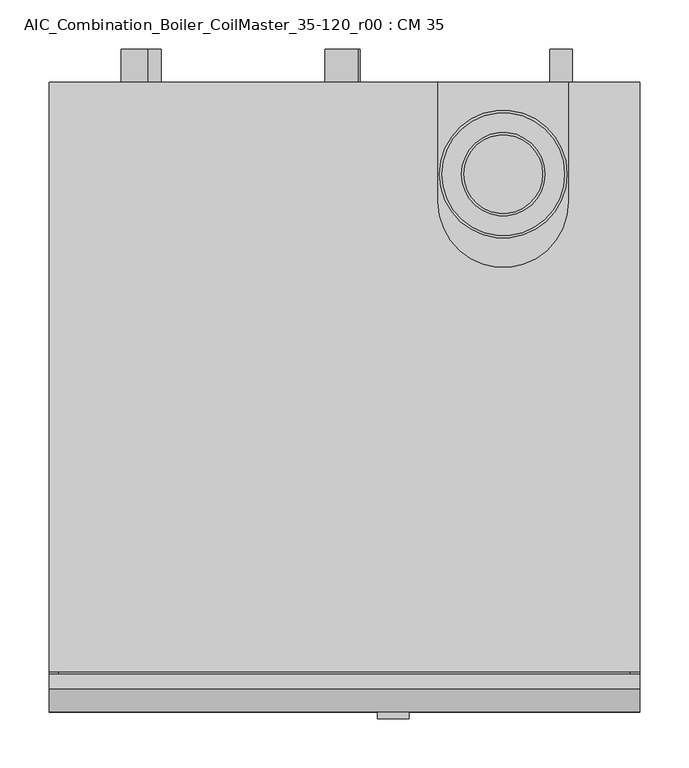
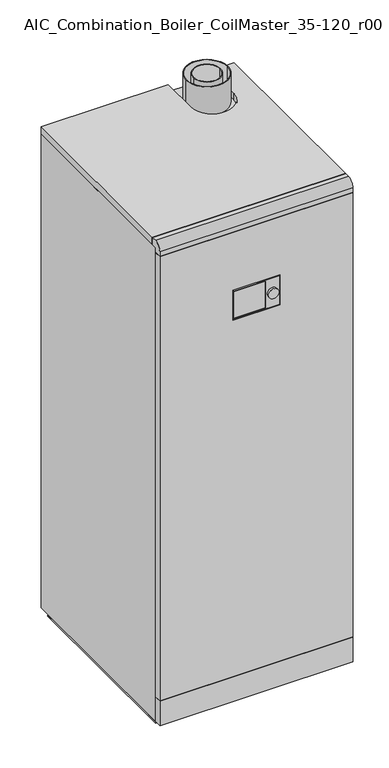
"""IFC4 building model written with IfcOpenShell, lengths in millimetres: unitary equipment geometry, AIC_Combination_Boiler_CoilMaster_35-120_r00 : CM 35."""

from ifc_helpers import new_model, si_unit, point, frame, frame_2d, origin, place, context, project, spatial, polyline, circle_curve, trimmed, segment, composite_curve, outline, extrude, source, transform, mapped, element, save
from ifc_brep_helpers import plane_surface, cylinder_surface, revolved_surface, advanced_brep


def aic_combination_boiler_coilmaster_35_120_r00_cm_35_10141b9a(model_context):
    return source(origin(), model_context, "Body", "SolidModel", [
        advanced_brep(
        [(72.0, -641.0, 1371.0), (-72.0, -641.0, 1371.0), (-72.0, -641.0, 1278.0), (72.0, -641.0, 1278.0), (-70.0, -641.0, 1369.0), (28.0, -641.0, 1369.0), (28.0, -641.0, 1280.0), (-70.0, -641.0, 1280.0), (66.0, -641.0, 1324.5), (34.0, -641.0, 1324.5), (72.0, -631.0, 1371.0), (72.0, -631.0, 1278.0), (-72.0, -631.0, 1278.0), (-72.0, -631.0, 1371.0), (28.0, -639.0, 1369.0), (-70.0, -639.0, 1369.0), (-70.0, -639.0, 1280.0), (28.0, -639.0, 1280.0), (34.0, -648.0, 1324.5), (66.0, -648.0, 1324.5)],
        [
            (0, 1),
            (1, 2),
            (2, 3),
            (3, 0),
            (4, 5),
            (5, 6),
            (6, 7),
            (7, 4),
            (8, 9, circle_curve(frame((50.0, -641.0, 1324.5), z_axis=(0.0, 1.0, 0.0), x_axis=(1.0, 0.0, 0.0)), 16.0)),
            (9, 8, circle_curve(frame((50.0, -641.0, 1324.5), z_axis=(0.0, 1.0, 0.0), x_axis=(1.0, 0.0, 0.0)), 16.0)),
            (10, 11),
            (11, 12),
            (12, 13),
            (13, 10),
            (0, 10),
            (13, 1),
            (12, 2),
            (11, 3),
            (14, 15),
            (15, 16),
            (16, 17),
            (17, 14),
            (14, 5),
            (4, 15),
            (7, 16),
            (6, 17),
            (18, 19, circle_curve(frame((50.0, -648.0, 1324.5), z_axis=(0.0, -1.0, 0.0), x_axis=(1.0, 0.0, 0.0)), 16.0)),
            (19, 18, circle_curve(frame((50.0, -648.0, 1324.5), z_axis=(0.0, -1.0, 0.0), x_axis=(1.0, 0.0, 0.0)), 16.0)),
            (18, 9),
            (8, 19),
        ],
        [
            plane_surface(frame((-72.0, -641.0, 1371.0), z_axis=(0.0, -1.0, 0.0), x_axis=(-1.0, 0.0, 0.0))),
            plane_surface(frame((-72.0, -631.0, 1371.0), z_axis=(0.0, 1.0, 0.0), x_axis=(1.0, 0.0, 0.0))),
            plane_surface(frame((72.0, -641.0, 1371.0), z_axis=(0.0, 0.0, 1.0), x_axis=(0.0, 1.0, 0.0))),
            plane_surface(frame((-72.0, -641.0, 1371.0), z_axis=(-1.0, 0.0, 0.0), x_axis=(0.0, 1.0, 0.0))),
            plane_surface(frame((-72.0, -641.0, 1278.0), z_axis=(0.0, 0.0, -1.0), x_axis=(0.0, 1.0, 0.0))),
            plane_surface(frame((72.0, -641.0, 1278.0), z_axis=(1.0, 0.0, 0.0), x_axis=(0.0, 1.0, 0.0))),
            plane_surface(frame((-70.0, -639.0, 1369.0), z_axis=(0.0, -1.0, 0.0), x_axis=(1.0, 0.0, 0.0))),
            plane_surface(frame((28.0, -641.0, 1369.0), z_axis=(0.0, 0.0, -1.0), x_axis=(0.0, 1.0, 0.0))),
            plane_surface(frame((-70.0, -641.0, 1369.0), z_axis=(1.0, 0.0, 0.0), x_axis=(0.0, 1.0, 0.0))),
            plane_surface(frame((-70.0, -641.0, 1280.0), z_axis=(0.0, 0.0, 1.0), x_axis=(0.0, 1.0, 0.0))),
            plane_surface(frame((28.0, -641.0, 1280.0), z_axis=(-1.0, 0.0, 0.0), x_axis=(0.0, 1.0, 0.0))),
            plane_surface(frame((66.0, -648.0, 1324.5), z_axis=(0.0, -1.0, 0.0), x_axis=(0.0, 0.0, 1.0))),
            cylinder_surface(frame((50.0, -641.0, 1324.5), z_axis=(0.0, -1.0, 0.0), x_axis=(1.0, 0.0, 0.0)), 16.0),
        ],
        [
            (0, [[1, 2, 3, 4], [5, 6, 7, 8], [9, 10]]),
            (1, [[11, 12, 13, 14]]),
            (2, [[-1, 15, -14, 16]]),
            (3, [[-2, -16, -13, 17]]),
            (4, [[-3, -17, -12, 18]]),
            (5, [[-4, -18, -11, -15]]),
            (6, [[19, 20, 21, 22]]),
            (7, [[-19, 23, -5, 24]]),
            (8, [[-20, -24, -8, 25]]),
            (9, [[-21, -25, -7, 26]]),
            (10, [[-22, -26, -6, -23]]),
            (11, [[27, 28]]),
            (12, [[-27, 29, -9, 30]]),
            (12, [[-28, -30, -10, -29]]),
        ],
    ),
        extrude(outline(composite_curve([segment(trimmed(circle_curve(frame_2d((139.0, 221.0)), 11.5), [point((139.0, 209.5))], [point((139.0, 232.5))], False, "CARTESIAN"), True, "CONTINUOUS"), segment(trimmed(circle_curve(frame_2d((139.0, 221.0)), 11.5), [point((139.0, 232.5))], [point((139.0, 209.5))], False, "CARTESIAN"), True, "CONTINUOUS")], self_intersect=False)), frame((0.0, 0.0, 0.0), z_axis=(0.0, 1.0, 0.0), x_axis=(0.0, 0.0, 1.0)), (0.0, 0.0, 1.0), 34.0),
        extrude(outline(composite_curve([segment(trimmed(circle_curve(frame_2d((299.0, -1.0)), 16.7), [point((299.0, -17.7))], [point((299.0, 15.7))], False, "CARTESIAN"), True, "CONTINUOUS"), segment(trimmed(circle_curve(frame_2d((299.0, -1.0)), 16.7), [point((299.0, 15.7))], [point((299.0, -17.7))], False, "CARTESIAN"), True, "CONTINUOUS")], self_intersect=False)), frame((0.0, 0.0, 0.0), z_axis=(0.0, 1.0, 0.0), x_axis=(0.0, 0.0, 1.0)), (0.0, 0.0, 1.0), 34.0),
        extrude(outline(composite_curve([segment(trimmed(circle_curve(frame_2d((338.0, -200.0)), 13.35), [point((338.0, -213.35))], [point((338.0, -186.65))], False, "CARTESIAN"), True, "CONTINUOUS"), segment(trimmed(circle_curve(frame_2d((338.0, -200.0)), 13.35), [point((338.0, -186.65))], [point((338.0, -213.35))], False, "CARTESIAN"), True, "CONTINUOUS")], self_intersect=False)), frame((0.0, 0.0, 0.0), z_axis=(0.0, 1.0, 0.0), x_axis=(0.0, 0.0, 1.0)), (0.0, 0.0, 1.0), 34.0),
        extrude(outline(composite_curve([segment(trimmed(circle_curve(frame_2d((455.0, -200.0)), 13.35), [point((455.0, -213.35))], [point((455.0, -186.65))], False, "CARTESIAN"), True, "CONTINUOUS"), segment(trimmed(circle_curve(frame_2d((455.0, -200.0)), 13.35), [point((455.0, -186.65))], [point((455.0, -213.35))], False, "CARTESIAN"), True, "CONTINUOUS")], self_intersect=False)), frame((0.0, 0.0, 0.0), z_axis=(0.0, 1.0, 0.0), x_axis=(0.0, 0.0, 1.0)), (0.0, 0.0, 1.0), 34.0),
        extrude(outline(composite_curve([segment(trimmed(circle_curve(frame_2d((570.0, -200.0)), 13.35), [point((570.0, -213.35))], [point((570.0, -186.65))], False, "CARTESIAN"), True, "CONTINUOUS"), segment(trimmed(circle_curve(frame_2d((570.0, -200.0)), 13.35), [point((570.0, -186.65))], [point((570.0, -213.35))], False, "CARTESIAN"), True, "CONTINUOUS")], self_intersect=False)), frame((0.0, 0.0, 0.0), z_axis=(0.0, 1.0, 0.0), x_axis=(0.0, 0.0, 1.0)), (0.0, 0.0, 1.0), 34.0),
        extrude(outline(composite_curve([segment(trimmed(circle_curve(frame_2d((1330.0, -200.0)), 13.35), [point((1330.0, -213.35))], [point((1330.0, -186.65))], False, "CARTESIAN"), True, "CONTINUOUS"), segment(trimmed(circle_curve(frame_2d((1330.0, -200.0)), 13.35), [point((1330.0, -186.65))], [point((1330.0, -213.35))], False, "CARTESIAN"), True, "CONTINUOUS")], self_intersect=False)), frame((0.0, 0.0, 0.0), z_axis=(0.0, 1.0, 0.0), x_axis=(0.0, 0.0, 1.0)), (0.0, 0.0, 1.0), 34.0),
        extrude(outline(composite_curve([segment(trimmed(circle_curve(frame_2d((1368.0, -3.0)), 16.7), [point((1368.0, -19.7))], [point((1368.0, 13.7))], False, "CARTESIAN"), True, "CONTINUOUS"), segment(trimmed(circle_curve(frame_2d((1368.0, -3.0)), 16.7), [point((1368.0, 13.7))], [point((1368.0, -19.7))], False, "CARTESIAN"), True, "CONTINUOUS")], self_intersect=False)), frame((0.0, 0.0, 0.0), z_axis=(0.0, 1.0, 0.0), x_axis=(0.0, 0.0, 1.0)), (0.0, 0.0, 1.0), 34.0),
        extrude(outline(composite_curve([segment(trimmed(circle_curve(frame_2d((1491.0, -214.0)), 13.35), [point((1491.0, -227.35))], [point((1491.0, -200.65))], False, "CARTESIAN"), True, "CONTINUOUS"), segment(trimmed(circle_curve(frame_2d((1491.0, -214.0)), 13.35), [point((1491.0, -200.65))], [point((1491.0, -227.35))], False, "CARTESIAN"), True, "CONTINUOUS")], self_intersect=False)), frame((0.0, 0.0, 0.0), z_axis=(0.0, 1.0, 0.0), x_axis=(0.0, 0.0, 1.0)), (0.0, 0.0, 1.0), 34.0),
        extrude(outline(composite_curve([segment(trimmed(circle_curve(frame_2d((162.0, -93.4)), 42.5), [point((119.5, -93.4))], [point((204.5, -93.4))], False, "CARTESIAN"), True, "CONTINUOUS"), segment(trimmed(circle_curve(frame_2d((162.0, -93.4)), 42.5), [point((204.5, -93.4))], [point((119.5, -93.4))], False, "CARTESIAN"), True, "CONTINUOUS")], self_intersect=False), holes=[composite_curve([segment(trimmed(circle_curve(frame_2d((162.0, -93.4)), 40.0), [point((122.0, -93.4))], [point((202.0, -93.4))], True, "CARTESIAN"), True, "CONTINUOUS"), segment(trimmed(circle_curve(frame_2d((162.0, -93.4)), 40.0), [point((202.0, -93.4))], [point((122.0, -93.4))], True, "CARTESIAN"), True, "CONTINUOUS")], self_intersect=False)]), frame((0.0, 0.0, 1580.5), z_axis=(0.0, 0.0, 1.0), x_axis=(1.0, 0.0, 0.0)), (0.0, 0.0, 1.0), 94.5),
        extrude(outline(composite_curve([segment(trimmed(circle_curve(frame_2d((162.0, -93.4)), 65.0), [point((97.0, -93.4))], [point((227.0, -93.4))], False, "CARTESIAN"), True, "CONTINUOUS"), segment(trimmed(circle_curve(frame_2d((162.0, -93.4)), 65.0), [point((227.0, -93.4))], [point((97.0, -93.4))], False, "CARTESIAN"), True, "CONTINUOUS")], self_intersect=False), holes=[composite_curve([segment(trimmed(circle_curve(frame_2d((162.0, -93.4)), 62.5), [point((99.5, -93.4))], [point((224.5, -93.4))], True, "CARTESIAN"), True, "CONTINUOUS"), segment(trimmed(circle_curve(frame_2d((162.0, -93.4)), 62.5), [point((224.5, -93.4))], [point((99.5, -93.4))], True, "CARTESIAN"), True, "CONTINUOUS")], self_intersect=False)]), frame((0.0, 0.0, 1580.5), z_axis=(0.0, 0.0, 1.0), x_axis=(1.0, 0.0, 0.0)), (0.0, 0.0, 1.0), 94.5),
        advanced_brep(
        [(301.0, -641.0, 20.0), (-301.0, -641.0, 20.0), (-301.0, -617.5, 20.0), (-291.0, -617.5, 20.0), (-291.0, -615.0, 20.0), (291.0, -615.0, 20.0), (291.0, -617.5, 20.0), (301.0, -617.5, 20.0), (-301.0, 0.0, 20.0), (-291.0, 0.0, 20.0), (-291.0, -58.0, 20.0), (-291.0, -560.0, 20.0), (-301.0, -615.0, 20.0), (291.0, 0.0, 20.0), (301.0, 0.0, 20.0), (301.0, -615.0, 20.0), (291.0, -560.0, 20.0), (291.0, -58.0, 20.0), (-291.0, -615.0, 100.0), (291.0, -615.0, 100.0), (-291.0, -18.0, 0.0), (-260.0, -18.0, 0.0), (-260.0, -600.0, 0.0), (-291.0, -600.0, 0.0), (260.0, -18.0, 0.0), (291.0, -18.0, 0.0), (291.0, -600.0, 0.0), (260.0, -600.0, 0.0), (-291.0, -58.0, 102.0), (-260.0, -58.0, 102.0), (-260.0, -58.0, 3.0), (-291.0, -58.0, 3.0), (-291.0, -18.0, 3.0), (-291.0, -600.0, 3.0), (-291.0, -560.0, 3.0), (-260.0, -560.0, 102.0), (-291.0, -560.0, 102.0), (-260.0, -560.0, 3.0), (-260.0, -600.0, 3.0), (-260.0, -18.0, 3.0), (260.0, -58.0, 102.0), (291.0, -58.0, 102.0), (291.0, -58.0, 3.0), (260.0, -58.0, 3.0), (260.0, -560.0, 102.0), (260.0, -18.0, 3.0), (260.0, -600.0, 3.0), (260.0, -560.0, 3.0), (291.0, -560.0, 102.0), (291.0, -560.0, 3.0), (291.0, -600.0, 3.0), (291.0, -18.0, 3.0), (-301.0, -617.5, 1604.0), (301.0, -617.5, 1604.0), (301.0, -603.0, 1604.0), (-301.0, -603.0, 1604.0), (-301.0, 0.0, 1604.0), (-301.0, -600.0, 1604.0), (301.0, -600.0, 1604.0), (301.0, 0.0, 1604.0), (229.0, 0.0, 1604.0), (229.0, -121.4, 1604.0), (95.0, -121.4, 1604.0), (95.0, 0.0, 1604.0), (-291.0, 0.0, 102.0), (291.0, 0.0, 102.0), (291.0, -615.0, 102.0), (291.0, -617.5, 102.0), (301.0, -617.5, 102.0), (301.0, -641.0, 102.0), (-301.0, -641.0, 102.0), (-301.0, -617.5, 102.0), (-291.0, -617.5, 102.0), (-291.0, -615.0, 102.0), (301.0, 0.0, 1580.5), (291.0, 0.0, 1580.5), (291.0, 0.0, 1578.5), (301.0, 0.0, 1578.5), (-301.0, 0.0, 1578.5), (-291.0, 0.0, 1578.5), (-291.0, 0.0, 1580.5), (-301.0, 0.0, 1580.5), (95.0, 0.0, 1580.5), (229.0, 0.0, 1580.5), (51.3, 0.0, 1368.0), (84.7, 0.0, 1368.0), (-301.0, -641.0, 1564.0), (-301.0, -617.5, 1564.0), (-301.0, -600.0, 1580.5), (-301.0, -641.0, 1580.5), (-301.0, -603.0, 1580.5), (-301.0, -617.5, 1580.5), (-301.0, -617.5, 1566.0), (-301.0, -641.0, 1566.0), (-301.0, -641.0, 100.0), (-301.0, -617.5, 100.0), (-301.0, -615.0, 1578.5), (301.0, -641.0, 100.0), (301.0, -641.0, 1564.0), (-73.5, -641.0, 1374.0), (73.5, -641.0, 1374.0), (73.5, -641.0, 1275.0), (-73.5, -641.0, 1275.0), (301.0, -641.0, 1580.5), (301.0, -641.0, 1566.0), (301.0, -617.5, 1564.0), (301.0, -600.0, 1580.5), (301.0, -617.5, 100.0), (301.0, -617.5, 1566.0), (301.0, -617.5, 1580.5), (301.0, -603.0, 1580.5), (301.0, -615.0, 1578.5), (73.5, -631.0, 1374.0), (-73.5, -631.0, 1374.0), (-73.5, -631.0, 1275.0), (73.5, -631.0, 1275.0), (291.0, -617.5, 100.0), (-291.0, -617.5, 100.0), (-291.0, -615.0, 1578.5), (291.0, -615.0, 1578.5), (-291.0, -617.5, 1564.0), (-291.0, -617.5, 1580.5), (-291.0, -617.5, 1566.0), (291.0, -617.5, 1564.0), (291.0, -617.5, 1580.5), (291.0, -617.5, 1566.0), (291.0, -600.0, 1580.5), (-291.0, -600.0, 1580.5), (-291.0, -603.0, 1580.5), (291.0, -603.0, 1580.5), (51.3, -58.0, 1368.0), (84.7, -58.0, 1368.0), (229.0, -121.4, 1580.5), (95.0, -121.4, 1580.5)],
        [
            (0, 1),
            (1, 2),
            (2, 3),
            (3, 4),
            (4, 5),
            (5, 6),
            (6, 7),
            (7, 0),
            (8, 9),
            (9, 10),
            (10, 11),
            (11, 4),
            (4, 12),
            (12, 8),
            (13, 14),
            (14, 15),
            (15, 5),
            (5, 16),
            (16, 17),
            (17, 13),
            (4, 18),
            (18, 19),
            (19, 5),
            (20, 21),
            (21, 22),
            (22, 23),
            (23, 20),
            (24, 25),
            (25, 26),
            (26, 27),
            (27, 24),
            (28, 29),
            (29, 30),
            (30, 31),
            (31, 10),
            (10, 28),
            (31, 32),
            (32, 20),
            (23, 33),
            (33, 34),
            (34, 11),
            (35, 36),
            (36, 11),
            (34, 37),
            (37, 35),
            (29, 35),
            (37, 38),
            (38, 22),
            (21, 39),
            (39, 30),
            (40, 41),
            (41, 17),
            (17, 42),
            (42, 43),
            (43, 40),
            (44, 40),
            (43, 45),
            (45, 24),
            (27, 46),
            (46, 47),
            (47, 44),
            (48, 44),
            (47, 49),
            (49, 16),
            (16, 48),
            (49, 50),
            (50, 26),
            (25, 51),
            (51, 42),
            (52, 53),
            (53, 54),
            (54, 55),
            (55, 52),
            (56, 57),
            (57, 58),
            (58, 59),
            (59, 60),
            (60, 61),
            (61, 62, circle_curve(frame((162.0, -121.4, 1604.0), z_axis=(0.0, 0.0, -1.0), x_axis=(1.0, 0.0, 0.0)), 67.0)),
            (62, 63),
            (63, 56),
            (28, 64),
            (64, 65),
            (65, 41),
            (48, 66),
            (66, 67),
            (67, 68),
            (68, 69),
            (69, 70),
            (70, 71),
            (71, 72),
            (72, 73),
            (73, 36),
            (59, 74),
            (74, 75),
            (75, 76),
            (76, 77),
            (77, 14),
            (13, 65),
            (64, 9),
            (8, 78),
            (78, 79),
            (79, 80),
            (80, 81),
            (81, 56),
            (63, 82),
            (82, 83),
            (83, 60),
            (84, 85, circle_curve(frame((68.0, 0.0, 1368.0), z_axis=(0.0, -1.0, 0.0), x_axis=(1.0, 0.0, 0.0)), 16.7)),
            (85, 84, circle_curve(frame((68.0, 0.0, 1368.0), z_axis=(0.0, -1.0, 0.0), x_axis=(1.0, 0.0, 0.0)), 16.7)),
            (70, 86),
            (86, 87),
            (87, 71),
            (81, 88),
            (88, 57),
            (89, 52, circle_curve(frame((-301.0, -617.5, 1580.5), z_axis=(-1.0, 0.0, 0.0), x_axis=(0.0, 1.0, 0.0)), 23.5)),
            (55, 90),
            (90, 91),
            (91, 92),
            (92, 93),
            (93, 89),
            (1, 94),
            (94, 95),
            (95, 2),
            (96, 78),
            (12, 96),
            (0, 97),
            (97, 94),
            (69, 98),
            (98, 86),
            (99, 100),
            (100, 101),
            (101, 102),
            (102, 99),
            (103, 89),
            (93, 104),
            (104, 103),
            (68, 105),
            (105, 98),
            (58, 106),
            (106, 74),
            (7, 107),
            (107, 97),
            (53, 103, circle_curve(frame((301.0, -617.5, 1580.5), z_axis=(1.0, 0.0, 0.0), x_axis=(0.0, 1.0, 0.0)), 23.5)),
            (104, 108),
            (108, 109),
            (109, 110),
            (110, 54),
            (77, 111),
            (111, 15),
            (112, 113),
            (113, 114),
            (114, 115),
            (115, 112),
            (112, 100),
            (99, 113),
            (102, 114),
            (101, 115),
            (73, 18),
            (19, 66),
            (33, 38),
            (46, 50),
            (39, 32),
            (51, 45),
            (107, 116),
            (116, 19),
            (18, 117),
            (117, 95),
            (73, 118),
            (118, 96),
            (4, 18),
            (19, 5),
            (111, 119),
            (119, 66),
            (87, 120),
            (120, 72),
            (91, 121),
            (121, 122),
            (122, 92),
            (117, 3),
            (67, 123),
            (123, 105),
            (124, 109),
            (108, 125),
            (125, 124),
            (6, 116),
            (106, 126),
            (126, 75),
            (80, 127),
            (127, 88),
            (90, 128),
            (128, 121),
            (124, 129),
            (129, 110),
            (118, 79),
            (76, 119),
            (120, 122),
            (128, 127),
            (126, 129),
            (125, 123),
            (126, 127),
            (128, 129),
            (122, 125),
            (123, 120),
            (130, 131, circle_curve(frame((68.0, -58.0, 1368.0), z_axis=(0.0, 1.0, 0.0), x_axis=(1.0, 0.0, 0.0)), 16.7)),
            (131, 130, circle_curve(frame((68.0, -58.0, 1368.0), z_axis=(0.0, 1.0, 0.0), x_axis=(1.0, 0.0, 0.0)), 16.7)),
            (131, 85),
            (84, 130),
            (132, 83),
            (82, 133),
            (133, 132, circle_curve(frame((162.0, -121.4, 1580.5), z_axis=(0.0, 0.0, 1.0), x_axis=(1.0, 0.0, 0.0)), 67.0)),
            (132, 61),
            (62, 133),
        ],
        [
            plane_surface(frame((-301.0, -615.0, 20.0), z_axis=(0.0, 0.0, -1.0), x_axis=(1.0, 0.0, 0.0))),
            plane_surface(frame((301.0, -615.0, 102.0), z_axis=(0.0, 1.0, 0.0), x_axis=(0.0, 0.0, -1.0))),
            plane_surface(frame((-291.0, -58.0, 0.0), z_axis=(0.0, 0.0, -1.0), x_axis=(1.0, 0.0, 0.0))),
            plane_surface(frame((-260.0, -58.0, 102.0), z_axis=(0.0, 1.0, 0.0), x_axis=(0.0, 0.0, -1.0))),
            plane_surface(frame((-291.0, -58.0, 102.0), z_axis=(-1.0, 0.0, 0.0), x_axis=(0.0, 0.0, -1.0))),
            plane_surface(frame((-291.0, -560.0, 102.0), z_axis=(0.0, -1.0, 0.0), x_axis=(0.0, 0.0, -1.0))),
            plane_surface(frame((-260.0, -560.0, 102.0), z_axis=(1.0, 0.0, 0.0), x_axis=(0.0, 0.0, -1.0))),
            plane_surface(frame((291.0, -58.0, 102.0), z_axis=(0.0, 1.0, 0.0), x_axis=(0.0, 0.0, -1.0))),
            plane_surface(frame((260.0, -58.0, 102.0), z_axis=(-1.0, 0.0, 0.0), x_axis=(0.0, 0.0, -1.0))),
            plane_surface(frame((260.0, -560.0, 102.0), z_axis=(0.0, -1.0, 0.0), x_axis=(0.0, 0.0, -1.0))),
            plane_surface(frame((291.0, -560.0, 102.0), z_axis=(1.0, 0.0, 0.0), x_axis=(0.0, 0.0, -1.0))),
            plane_surface(frame((-301.0, 0.0, 1604.0), z_axis=(0.0, 0.0, 1.0), x_axis=(-1.0, 0.0, 0.0))),
            plane_surface(frame((-301.0, 0.0, 102.0), z_axis=(0.0, 0.0, -1.0), x_axis=(1.0, 0.0, 0.0))),
            plane_surface(frame((301.0, 0.0, 1604.0), z_axis=(0.0, 1.0, 0.0), x_axis=(0.0, 0.0, -1.0))),
            plane_surface(frame((-301.0, 0.0, 1604.0), z_axis=(-1.0, 0.0, 0.0), x_axis=(0.0, 0.0, -1.0))),
            plane_surface(frame((-301.0, -641.0, 1604.0), z_axis=(0.0, -1.0, 0.0), x_axis=(0.0, 0.0, -1.0))),
            plane_surface(frame((301.0, -641.0, 1604.0), z_axis=(1.0, 0.0, 0.0), x_axis=(0.0, 0.0, -1.0))),
            plane_surface(frame((-73.5, -631.0, 1374.0), z_axis=(0.0, -1.0, 0.0), x_axis=(1.0, 0.0, 0.0))),
            plane_surface(frame((73.5, -641.0, 1374.0), z_axis=(0.0, 0.0, -1.0), x_axis=(0.0, 1.0, 0.0))),
            plane_surface(frame((-73.5, -641.0, 1374.0), z_axis=(1.0, 0.0, 0.0), x_axis=(0.0, 1.0, 0.0))),
            plane_surface(frame((-73.5, -641.0, 1275.0), z_axis=(0.0, 0.0, 1.0), x_axis=(0.0, 1.0, 0.0))),
            plane_surface(frame((73.5, -641.0, 1275.0), z_axis=(-1.0, 0.0, 0.0), x_axis=(0.0, 1.0, 0.0))),
            plane_surface(frame((-291.0, -615.0, 102.0), z_axis=(1.0, 0.0, 0.0), x_axis=(0.0, 0.0, -1.0))),
            plane_surface(frame((291.0, 0.0, 102.0), z_axis=(-1.0, 0.0, 0.0), x_axis=(0.0, 0.0, -1.0))),
            plane_surface(frame((-291.0, -18.0, 3.0), z_axis=(0.0, 0.0, 1.0), x_axis=(-1.0, 0.0, 0.0))),
            plane_surface(frame((-260.0, -18.0, 3.0), z_axis=(0.0, 1.0, 0.0), x_axis=(0.0, 0.0, -1.0))),
            plane_surface(frame((291.0, -18.0, 3.0), z_axis=(0.0, 1.0, 0.0), x_axis=(0.0, 0.0, -1.0))),
            plane_surface(frame((260.0, -600.0, 3.0), z_axis=(0.0, -1.0, 0.0), x_axis=(0.0, 0.0, -1.0))),
            plane_surface(frame((-291.0, -600.0, 3.0), z_axis=(0.0, -1.0, 0.0), x_axis=(0.0, 0.0, -1.0))),
            cylinder_surface(frame((-301.0, -617.5, 1580.5), z_axis=(-1.0, 0.0, 0.0), x_axis=(0.0, 1.0, 0.0)), 23.5),
            plane_surface(frame((301.0, -641.0, 100.0), z_axis=(0.0, 0.0, 1.0), x_axis=(0.0, -1.0, 0.0))),
            plane_surface(frame((301.0, -615.0, 102.0), z_axis=(0.0, -1.0, 0.0), x_axis=(0.0, 0.0, -1.0))),
            plane_surface(frame((-301.0, -617.5, 1580.5), z_axis=(0.0, 1.0, 0.0), x_axis=(0.0, 0.0, -1.0))),
            plane_surface(frame((291.0, -617.5, 1580.5), z_axis=(0.0, 1.0, 0.0), x_axis=(0.0, 0.0, -1.0))),
            plane_surface(frame((-301.0, 0.0, 1580.5), z_axis=(0.0, 0.0, -1.0), x_axis=(-1.0, 0.0, 0.0))),
            plane_surface(frame((-301.0, 0.0, 1578.5), z_axis=(0.0, 0.0, 1.0), x_axis=(1.0, 0.0, 0.0))),
            plane_surface(frame((-291.0, -615.0, 1580.5), z_axis=(-1.0, 0.0, 0.0), x_axis=(0.0, 0.0, -1.0))),
            plane_surface(frame((291.0, 0.0, 1580.5), z_axis=(1.0, 0.0, 0.0), x_axis=(0.0, 0.0, -1.0))),
            plane_surface(frame((-301.0, -600.0, 1580.5), z_axis=(0.0, 0.0, 1.0), x_axis=(1.0, 0.0, 0.0))),
            plane_surface(frame((301.0, -600.0, 1604.0), z_axis=(0.0, -1.0, 0.0), x_axis=(0.0, 0.0, -1.0))),
            plane_surface(frame((-301.0, -603.0, 1604.0), z_axis=(0.0, 1.0, 0.0), x_axis=(0.0, 0.0, -1.0))),
            plane_surface(frame((-301.0, -617.5, 1566.0), z_axis=(0.0, 0.0, -1.0), x_axis=(-1.0, 0.0, 0.0))),
            plane_surface(frame((-301.0, -617.5, 1564.0), z_axis=(0.0, 0.0, 1.0), x_axis=(1.0, 0.0, 0.0))),
            plane_surface(frame((301.0, -617.5, 1566.0), z_axis=(0.0, -1.0, 0.0), x_axis=(0.0, 0.0, -1.0))),
            plane_surface(frame((84.7, -58.0, 1368.0), z_axis=(0.0, 1.0, 0.0), x_axis=(0.0, 0.0, 1.0))),
            revolved_surface(polyline([(84.7, -58.0, 1368.0), (84.7, 0.0, 1368.0)]), (68.0, 0.0, 1368.0), (0.0, -1.0, 0.0)),
            plane_surface(frame((229.0, 0.0, 1580.5), z_axis=(0.0, 0.0, 1.0), x_axis=(0.0, -1.0, 0.0))),
            plane_surface(frame((229.0, -121.4, 1604.0), z_axis=(-1.0, 0.0, 0.0), x_axis=(0.0, 0.0, -1.0))),
            plane_surface(frame((95.0, 0.0, 1604.0), z_axis=(1.0, 0.0, 0.0), x_axis=(0.0, 0.0, -1.0))),
            revolved_surface(polyline([(229.0, -121.4, 1604.0), (229.0, -121.4, 1580.5)]), (162.0, -121.4, 1580.5), (0.0, 0.0, 1.0)),
        ],
        [
            (0, [[1, 2, 3, 4, 5, 6, 7, 8]]),
            (0, [[9, 10, 11, 12, 13, 14]]),
            (0, [[15, 16, 17, 18, 19, 20]]),
            (1, [[-5, 21, 22, 23]]),
            (2, [[24, 25, 26, 27]]),
            (2, [[28, 29, 30, 31]]),
            (3, [[32, 33, 34, 35, 36]]),
            (4, [[-11, -35, 37, 38, -27, 39, 40, 41]]),
            (5, [[42, 43, -41, 44, 45]]),
            (6, [[46, -45, 47, 48, -25, 49, 50, -33]]),
            (7, [[51, 52, 53, 54, 55]]),
            (8, [[56, -55, 57, 58, -31, 59, 60, 61]]),
            (9, [[62, -61, 63, 64, 65]]),
            (10, [[-19, -64, 66, 67, -29, 68, 69, -53]]),
            (11, [[70, 71, 72, 73]]),
            (11, [[74, 75, 76, 77, 78, 79, 80, 81]]),
            (12, [[-32, 82, 83, 84, -51, -56, -62, 85, 86, 87, 88, 89, 90, 91, 92, 93, -42, -46]]),
            (13, [[94, 95, 96, 97, 98, -15, 99, -83, 100, -9, 101, 102, 103, 104, 105, -81, 106, 107, 108, -77], [109, 110]]),
            (14, [[-90, 111, 112, 113]]),
            (14, [[-105, 114, 115, -74]]),
            (14, [[116, -73, 117, 118, 119, 120, 121]]),
            (14, [[122, 123, 124, -2]]),
            (14, [[125, -101, -14, 126]]),
            (15, [[-1, 127, 128, -122]]),
            (15, [[-89, 129, 130, -111], [131, 132, 133, 134]]),
            (15, [[135, -121, 136, 137]]),
            (16, [[-88, 138, 139, -129]]),
            (16, [[-94, -76, 140, 141]]),
            (16, [[-127, -8, 142, 143]]),
            (16, [[144, -137, 145, 146, 147, 148, -71]]),
            (16, [[149, 150, -16, -98]]),
            (17, [[151, 152, 153, 154]]),
            (18, [[-151, 155, -131, 156]]),
            (19, [[-152, -156, -134, 157]]),
            (20, [[-153, -157, -133, 158]]),
            (21, [[-154, -158, -132, -155]]),
            (22, [[-12, -43, -93, 159, -21]]),
            (22, [[-100, -82, -36, -10]]),
            (23, [[-18, -23, 160, -85, -65]]),
            (23, [[-99, -20, -52, -84]]),
            (24, [[-40, 161, -47, -44]]),
            (24, [[-60, 162, -66, -63]]),
            (24, [[163, -37, -34, -50]]),
            (24, [[164, -57, -54, -69]]),
            (25, [[-163, -49, -24, -38]]),
            (26, [[-164, -68, -28, -58]]),
            (27, [[-162, -59, -30, -67]]),
            (28, [[-161, -39, -26, -48]]),
            (29, [[-70, -116, -135, -144]]),
            (30, [[-128, -143, 165, 166, -22, 167, 168, -123]]),
            (31, [[-159, 169, 170, -126, -13, 171]]),
            (31, [[-160, 172, -17, -150, 173, 174]]),
            (32, [[-91, -113, 175, 176]]),
            (32, [[177, 178, 179, -119]]),
            (32, [[180, -3, -124, -168]]),
            (33, [[-87, 181, 182, -138]]),
            (33, [[183, -146, 184, 185]]),
            (33, [[186, -165, -142, -7]]),
            (34, [[-95, -141, 187, 188]]),
            (34, [[-104, 189, 190, -114]]),
            (34, [[-177, -118, 191, 192]]),
            (34, [[-183, 193, 194, -147]]),
            (35, [[195, -102, -125, -170]]),
            (35, [[196, -173, -149, -97]]),
            (36, [[-171, -4, -180, -167]]),
            (36, [[-195, -169, -92, -176, 197, -178, -192, 198, -189, -103]]),
            (37, [[-172, -166, -186, -6]]),
            (37, [[-196, -96, -188, 199, -193, -185, 200, -181, -86, -174]]),
            (38, [[201, -198, 202, -199]]),
            (39, [[-201, -187, -140, -75, -115, -190]]),
            (40, [[-202, -191, -117, -72, -148, -194]]),
            (41, [[203, -184, -145, -136, -120, -179]]),
            (42, [[204, -175, -112, -130, -139, -182]]),
            (43, [[-203, -197, -204, -200]]),
            (44, [[205, 206]]),
            (45, [[-206, 207, -109, 208]]),
            (45, [[-205, -208, -110, -207]]),
            (46, [[209, -107, 210, 211]]),
            (47, [[-209, 212, -78, -108]]),
            (48, [[-210, -106, -80, 213]]),
            (49, [[-211, -213, -79, -212]]),
        ],
    ),
    ])


if __name__ == "__main__":
    model = new_model("IFC4")
    model_context = context("Model", 3, world=origin())
    ifc_project = project(units=[si_unit("LENGTHUNIT", "METRE", prefix="MILLI")], contexts=[model_context])
    site = spatial("IfcSite", under=ifc_project)
    building = spatial("IfcBuilding", under=site)
    placement = place(None, origin())
    aic_combination_boiler_coilmaster_35_120_r00_cm_35_shape = aic_combination_boiler_coilmaster_35_120_r00_cm_35_10141b9a(model_context)
    element("IfcUnitaryEquipment", 1, ObjectType="AIC_Combination_Boiler_CoilMaster_35-120_r00 : CM 35", at=placement, inside=building, context=model_context, shape_type="MappedRepresentation", body=[
        mapped(aic_combination_boiler_coilmaster_35_120_r00_cm_35_shape, transform((0.0, 0.0, 0.0), x_axis=(1.0, 0.0, 0.0), y_axis=(0.0, 1.0, 0.0), z_axis=(0.0, 0.0, 1.0))),
    ])
    save(model, "model.ifc")
